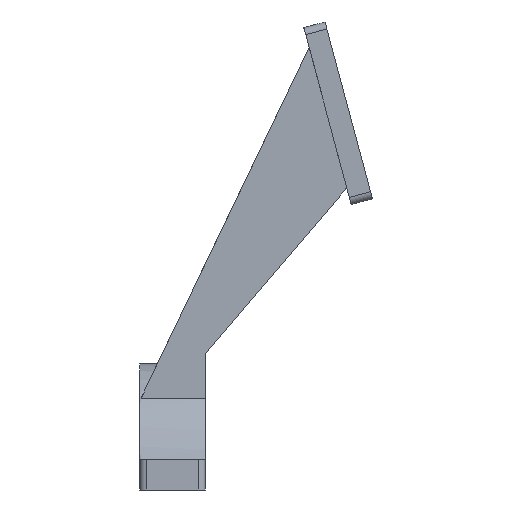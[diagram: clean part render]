
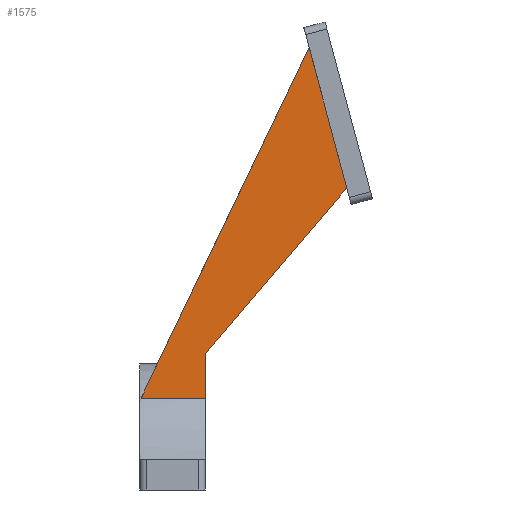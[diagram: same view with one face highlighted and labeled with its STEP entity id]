
A CAD part, front view. The second image highlights one B-rep face of the part: STEP entity #1575.
In plain terms, the highlighted planar face has unit normal (0, -1, 0).
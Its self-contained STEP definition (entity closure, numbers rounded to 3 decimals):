
#33 = CYLINDRICAL_SURFACE('',#34,35.3);
#34 = AXIS2_PLACEMENT_3D('',#35,#36,#37);
#35 = CARTESIAN_POINT('',(-35.,0.,0.));
#36 = DIRECTION('',(-1.,-0.,-0.));
#37 = DIRECTION('',(0.,1.,0.));
#307 = PLANE('',#308);
#308 = AXIS2_PLACEMENT_3D('',#309,#310,#311);
#309 = CARTESIAN_POINT('',(-17.,0.,0.)
  );
#310 = DIRECTION('',(1.,0.,0.));
#311 = DIRECTION('',(-0.,0.,1.));
#454 = VERTEX_POINT('',#455);
#455 = CARTESIAN_POINT('',(-34.575,-24.,25.886));
#473 = PLANE('',#474);
#474 = AXIS2_PLACEMENT_3D('',#475,#476,#477);
#475 = CARTESIAN_POINT('',(11.668,-20.,122.378));
#476 = DIRECTION('',(0.902,0.,-0.432));
#477 = DIRECTION('',(-0.432,0.,-0.902));
#485 = EDGE_CURVE('',#486,#454,#488,.T.);
#486 = VERTEX_POINT('',#487);
#487 = CARTESIAN_POINT('',(-17.,-24.,25.886));
#488 = SURFACE_CURVE('',#489,(#493,#499),.PCURVE_S1.);
#489 = LINE('',#490,#491);
#490 = CARTESIAN_POINT('',(-35.,-24.,25.886));
#491 = VECTOR('',#492,1.);
#492 = DIRECTION('',(-1.,-0.,-0.));
#493 = PCURVE('',#33,#494);
#494 = DEFINITIONAL_REPRESENTATION('',(#495),#498);
#495 = B_SPLINE_CURVE_WITH_KNOTS('',1,(#496,#497),.UNSPECIFIED.,.F.,.F.,
  (2,2),(-18.,0.),.PIECEWISE_BEZIER_KNOTS.);
#496 = CARTESIAN_POINT('',(-2.318,-18.));
#497 = CARTESIAN_POINT('',(-2.318,0.));
#498 = ( GEOMETRIC_REPRESENTATION_CONTEXT(2) 
PARAMETRIC_REPRESENTATION_CONTEXT() REPRESENTATION_CONTEXT('2D SPACE',''
  ) );
#499 = PCURVE('',#500,#505);
#500 = PLANE('',#501);
#501 = AXIS2_PLACEMENT_3D('',#502,#503,#504);
#502 = CARTESIAN_POINT('',(-4.701,-24.,69.42));
#503 = DIRECTION('',(-0.,-1.,-0.));
#504 = DIRECTION('',(0.,0.,-1.));
#505 = DEFINITIONAL_REPRESENTATION('',(#506),#509);
#506 = B_SPLINE_CURVE_WITH_KNOTS('',1,(#507,#508),.UNSPECIFIED.,.F.,.F.,
  (2,2),(-18.,0.),.PIECEWISE_BEZIER_KNOTS.);
#507 = CARTESIAN_POINT('',(43.534,-12.299));
#508 = CARTESIAN_POINT('',(43.534,-30.299));
#509 = ( GEOMETRIC_REPRESENTATION_CONTEXT(2) 
PARAMETRIC_REPRESENTATION_CONTEXT() REPRESENTATION_CONTEXT('2D SPACE',''
  ) );
#1504 = VERTEX_POINT('',#1505);
#1505 = CARTESIAN_POINT('',(-17.,-24.,38.));
#1519 = PLANE('',#1520);
#1520 = AXIS2_PLACEMENT_3D('',#1521,#1522,#1523);
#1521 = CARTESIAN_POINT('',(-17.,-20.,38.));
#1522 = DIRECTION('',(-0.761,0.,0.649));
#1523 = DIRECTION('',(0.649,0.,0.761));
#1531 = EDGE_CURVE('',#486,#1504,#1532,.T.);
#1532 = SURFACE_CURVE('',#1533,(#1537,#1544),.PCURVE_S1.);
#1533 = LINE('',#1534,#1535);
#1534 = CARTESIAN_POINT('',(-17.,-24.,25.));
#1535 = VECTOR('',#1536,1.);
#1536 = DIRECTION('',(0.,0.,1.));
#1537 = PCURVE('',#307,#1538);
#1538 = DEFINITIONAL_REPRESENTATION('',(#1539),#1543);
#1539 = LINE('',#1540,#1541);
#1540 = CARTESIAN_POINT('',(25.,24.));
#1541 = VECTOR('',#1542,1.);
#1542 = DIRECTION('',(1.,0.));
#1543 = ( GEOMETRIC_REPRESENTATION_CONTEXT(2) 
PARAMETRIC_REPRESENTATION_CONTEXT() REPRESENTATION_CONTEXT('2D SPACE',''
  ) );
#1544 = PCURVE('',#500,#1545);
#1545 = DEFINITIONAL_REPRESENTATION('',(#1546),#1550);
#1546 = LINE('',#1547,#1548);
#1547 = CARTESIAN_POINT('',(44.42,-12.299));
#1548 = VECTOR('',#1549,1.);
#1549 = DIRECTION('',(-1.,0.));
#1550 = ( GEOMETRIC_REPRESENTATION_CONTEXT(2) 
PARAMETRIC_REPRESENTATION_CONTEXT() REPRESENTATION_CONTEXT('2D SPACE',''
  ) );
#1575 = ADVANCED_FACE('',(#1576),#500,.T.);
#1576 = FACE_BOUND('',#1577,.T.);
#1577 = EDGE_LOOP('',(#1578,#1601,#1602,#1603,#1626));
#1578 = ORIENTED_EDGE('',*,*,#1579,.T.);
#1579 = EDGE_CURVE('',#1580,#454,#1582,.T.);
#1580 = VERTEX_POINT('',#1581);
#1581 = CARTESIAN_POINT('',(11.336,-24.,121.686));
#1582 = SURFACE_CURVE('',#1583,(#1587,#1594),.PCURVE_S1.);
#1583 = LINE('',#1584,#1585);
#1584 = CARTESIAN_POINT('',(11.668,-24.,122.378));
#1585 = VECTOR('',#1586,1.);
#1586 = DIRECTION('',(-0.432,0.,-0.902));
#1587 = PCURVE('',#500,#1588);
#1588 = DEFINITIONAL_REPRESENTATION('',(#1589),#1593);
#1589 = LINE('',#1590,#1591);
#1590 = CARTESIAN_POINT('',(-52.958,16.369));
#1591 = VECTOR('',#1592,1.);
#1592 = DIRECTION('',(0.902,-0.432));
#1593 = ( GEOMETRIC_REPRESENTATION_CONTEXT(2) 
PARAMETRIC_REPRESENTATION_CONTEXT() REPRESENTATION_CONTEXT('2D SPACE',''
  ) );
#1594 = PCURVE('',#473,#1595);
#1595 = DEFINITIONAL_REPRESENTATION('',(#1596),#1600);
#1596 = LINE('',#1597,#1598);
#1597 = CARTESIAN_POINT('',(-0.,-4.));
#1598 = VECTOR('',#1599,1.);
#1599 = DIRECTION('',(1.,0.));
#1600 = ( GEOMETRIC_REPRESENTATION_CONTEXT(2) 
PARAMETRIC_REPRESENTATION_CONTEXT() REPRESENTATION_CONTEXT('2D SPACE',''
  ) );
#1601 = ORIENTED_EDGE('',*,*,#485,.F.);
#1602 = ORIENTED_EDGE('',*,*,#1531,.T.);
#1603 = ORIENTED_EDGE('',*,*,#1604,.T.);
#1604 = EDGE_CURVE('',#1504,#1605,#1607,.T.);
#1605 = VERTEX_POINT('',#1606);
#1606 = CARTESIAN_POINT('',(21.627,-24.,83.28));
#1607 = SURFACE_CURVE('',#1608,(#1612,#1619),.PCURVE_S1.);
#1608 = LINE('',#1609,#1610);
#1609 = CARTESIAN_POINT('',(-17.,-24.,38.));
#1610 = VECTOR('',#1611,1.);
#1611 = DIRECTION('',(0.649,0.,0.761));
#1612 = PCURVE('',#500,#1613);
#1613 = DEFINITIONAL_REPRESENTATION('',(#1614),#1618);
#1614 = LINE('',#1615,#1616);
#1615 = CARTESIAN_POINT('',(31.42,-12.299));
#1616 = VECTOR('',#1617,1.);
#1617 = DIRECTION('',(-0.761,0.649));
#1618 = ( GEOMETRIC_REPRESENTATION_CONTEXT(2) 
PARAMETRIC_REPRESENTATION_CONTEXT() REPRESENTATION_CONTEXT('2D SPACE',''
  ) );
#1619 = PCURVE('',#1519,#1620);
#1620 = DEFINITIONAL_REPRESENTATION('',(#1621),#1625);
#1621 = LINE('',#1622,#1623);
#1622 = CARTESIAN_POINT('',(0.,-4.));
#1623 = VECTOR('',#1624,1.);
#1624 = DIRECTION('',(1.,0.));
#1625 = ( GEOMETRIC_REPRESENTATION_CONTEXT(2) 
PARAMETRIC_REPRESENTATION_CONTEXT() REPRESENTATION_CONTEXT('2D SPACE',''
  ) );
#1626 = ORIENTED_EDGE('',*,*,#1627,.F.);
#1627 = EDGE_CURVE('',#1580,#1605,#1628,.T.);
#1628 = SURFACE_CURVE('',#1629,(#1633,#1639),.PCURVE_S1.);
#1629 = LINE('',#1630,#1631);
#1630 = CARTESIAN_POINT('',(16.61,-24.,102.005));
#1631 = VECTOR('',#1632,1.);
#1632 = DIRECTION('',(0.259,0.,-0.966));
#1633 = PCURVE('',#500,#1634);
#1634 = DEFINITIONAL_REPRESENTATION('',(#1635),#1638);
#1635 = B_SPLINE_CURVE_WITH_KNOTS('',1,(#1636,#1637),.UNSPECIFIED.,.F.,
  .F.,(2,2),(-21.093,20.907),.PIECEWISE_BEZIER_KNOTS.);
#1636 = CARTESIAN_POINT('',(-52.958,15.851));
#1637 = CARTESIAN_POINT('',(-12.389,26.722));
#1638 = ( GEOMETRIC_REPRESENTATION_CONTEXT(2) 
PARAMETRIC_REPRESENTATION_CONTEXT() REPRESENTATION_CONTEXT('2D SPACE',''
  ) );
#1639 = PCURVE('',#1640,#1645);
#1640 = PLANE('',#1641);
#1641 = AXIS2_PLACEMENT_3D('',#1642,#1643,#1644);
#1642 = CARTESIAN_POINT('',(9.891,-27.,127.079));
#1643 = DIRECTION('',(0.966,0.,0.259));
#1644 = DIRECTION('',(0.259,0.,-0.966));
#1645 = DEFINITIONAL_REPRESENTATION('',(#1646),#1649);
#1646 = B_SPLINE_CURVE_WITH_KNOTS('',1,(#1647,#1648),.UNSPECIFIED.,.F.,
  .F.,(2,2),(-21.093,20.907),.PIECEWISE_BEZIER_KNOTS.);
#1647 = CARTESIAN_POINT('',(4.866,3.));
#1648 = CARTESIAN_POINT('',(46.866,3.));
#1649 = ( GEOMETRIC_REPRESENTATION_CONTEXT(2) 
PARAMETRIC_REPRESENTATION_CONTEXT() REPRESENTATION_CONTEXT('2D SPACE',''
  ) );
